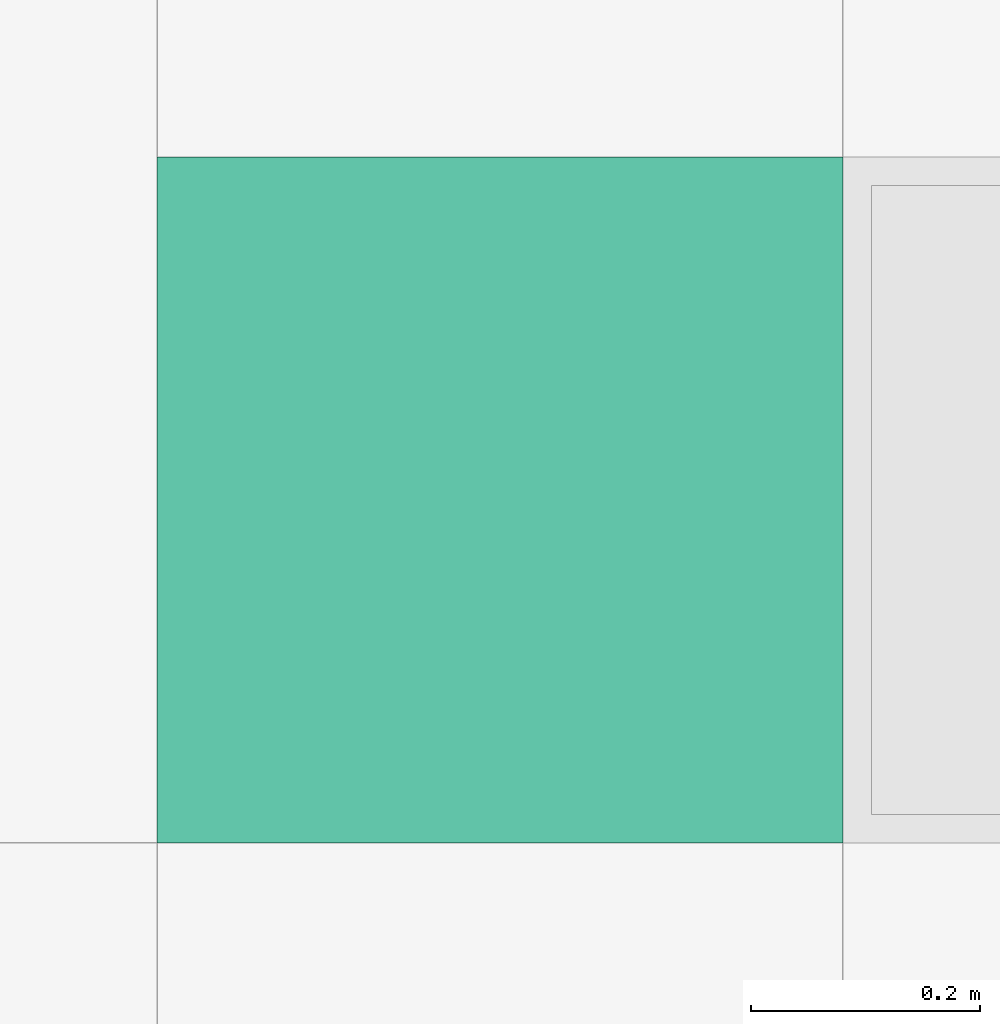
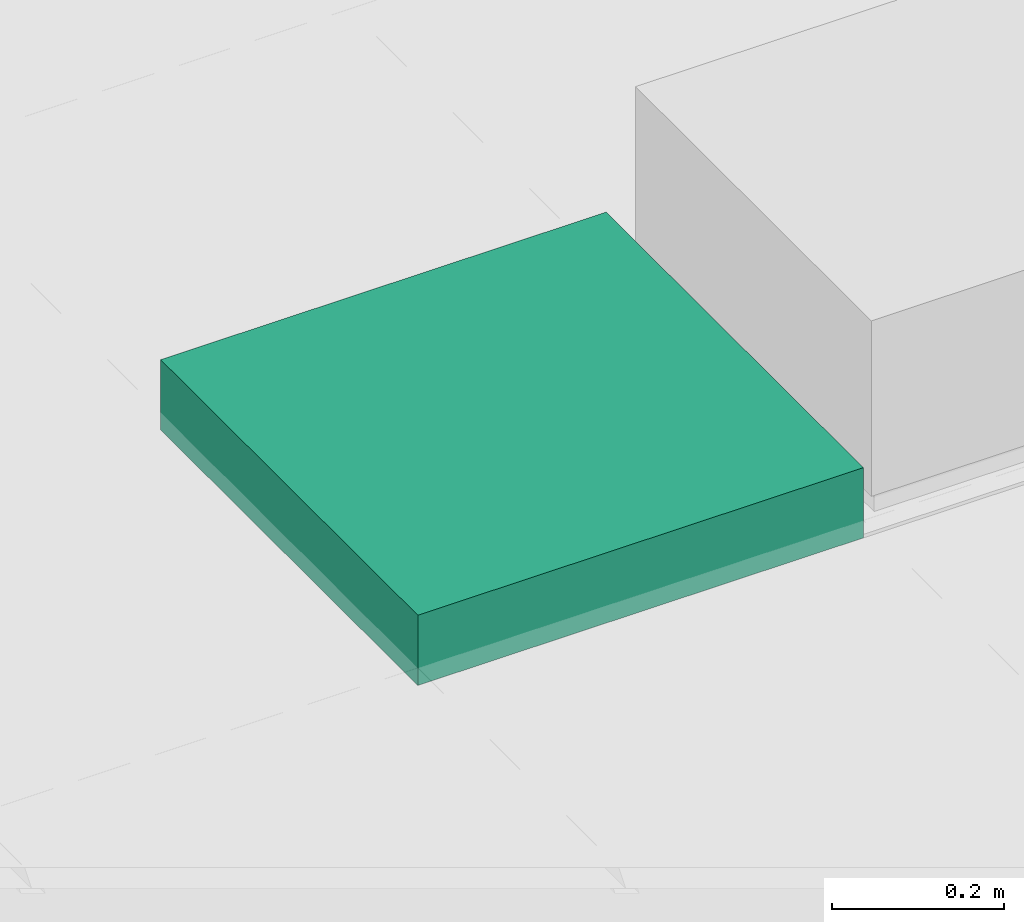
# One storey, part 291 of 347: 1 flow terminal.
"""IFC2X3 building model written with IfcOpenShell, lengths in millimetres."""

from ifc_helpers import new_model, entity, si_unit, converted_unit, derived_unit, money_unit, direction, frame, origin_with_axes, place, context, subcontext, project, spatial, open_shell, faceted_brep, surface_model, source, transform, mapped, type_object, type_shapes, element, save


model = new_model("IFC2X3")

# Units and contexts
model_context = context("Model", 3, precision=0.01, world=origin_with_axes(), true_north=direction((0.0, 1.0)))
plan_context = context("Plan", 3, precision=0.01, world=origin_with_axes(), true_north=direction((0.0, 1.0)))
body_context = subcontext(model_context, "Body", "Model", "MODEL_VIEW")
ifc_project = project(units=[si_unit("LENGTHUNIT", "METRE", prefix="MILLI"), si_unit("AREAUNIT", "SQUARE_METRE"), si_unit("VOLUMEUNIT", "CUBIC_METRE"), converted_unit("PLANEANGLEUNIT", "DEGREE", entity("IfcPlaneAngleMeasure", 0.0174532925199), si_unit("PLANEANGLEUNIT", "RADIAN"), dimensions=[0, 0, 0, 0, 0, 0, 0]), money_unit("EUR"), converted_unit("TIMEUNIT", "Year", entity("IfcTimeMeasure", 31556926.0), si_unit("TIMEUNIT", "SECOND"), dimensions=[0, 0, 1, 0, 0, 0, 0]), si_unit("MASSUNIT", "GRAM", prefix="KILO"), si_unit("THERMODYNAMICTEMPERATUREUNIT", "DEGREE_CELSIUS"), si_unit("LUMINOUSINTENSITYUNIT", "LUMEN"), si_unit("ENERGYUNIT", "JOULE", prefix="MEGA"), derived_unit("THERMALCONDUCTANCEUNIT", [(si_unit("POWERUNIT", "WATT"), 1), (si_unit("LENGTHUNIT", "METRE"), -1), (si_unit("THERMODYNAMICTEMPERATUREUNIT", "KELVIN"), -1)]), derived_unit("SPECIFICHEATCAPACITYUNIT", [(si_unit("ENERGYUNIT", "JOULE"), 1), (si_unit("MASSUNIT", "GRAM", prefix="KILO"), -1), (si_unit("THERMODYNAMICTEMPERATUREUNIT", "KELVIN"), -1)]), derived_unit("MASSDENSITYUNIT", [(si_unit("MASSUNIT", "GRAM", prefix="KILO"), 1), (si_unit("VOLUMEUNIT", "CUBIC_METRE"), -1)])], contexts=[model_context, plan_context])

# Site, building, storey
site_placement = place(None, origin_with_axes())
site = spatial("IfcSite", under=ifc_project, at=site_placement, Name="Site", CompositionType="ELEMENT")
building_placement = place(site_placement, origin_with_axes())
building = spatial("IfcBuilding", under=site, at=building_placement, Name="Naam gebouw", CompositionType="ELEMENT")
storey_placement = place(building_placement, origin_with_axes())
storey = spatial("IfcBuildingStorey", under=building, at=storey_placement, Name="begane grond", CompositionType="ELEMENT", Elevation=0.0)

# Flow terminal
lamp_type = type_object("IfcLampType", Name="TL plafond 25", PredefinedType="NOTDEFINED")
shared_shape = source(origin_with_axes(), body_context, "Body", "SurfaceModel", [
    faceted_brep([(0.0, 0.0, -100.0), (0.0, 0.0, 0.0), (-600.0, 0.0, 0.0), (-600.0, 0.0, -100.0), (0.0, 600.0, -100.0), (0.0, 600.0, 0.0), (-600.0, 600.0, 0.0), (-40.0, 40.0, 0.0), (-560.0, 40.0, 0.0), (-560.0, 560.0, 0.0), (-40.0, 560.0, 0.0), (-600.0, 600.0, -100.0), (-40.0, 40.0, -100.0), (-40.0, 560.0, -100.0), (-560.0, 560.0, -100.0), (-560.0, 40.0, -100.0)], [[[0, 1, 2, 3]], [[4, 5, 1, 0]], [[1, 5, 6, 2], [7, 8, 9, 10]], [[3, 2, 6, 11]], [[0, 3, 11, 4], [12, 13, 14, 15]], [[11, 6, 5, 4]], [[15, 8, 7, 12]], [[14, 9, 8, 15]], [[13, 10, 9, 14]], [[12, 7, 10, 13]]]),
    faceted_brep([(-40.0, 40.0, -16.3333333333), (-40.0, 40.0, 0.0), (-560.0, 40.0, 0.0), (-560.0, 40.0, -16.3333333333), (-40.0, 560.0, -16.3333333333), (-40.0, 560.0, 0.0), (-560.0, 560.0, 0.0), (-560.0, 560.0, -16.3333333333)], [[[0, 1, 2, 3]], [[4, 5, 1, 0]], [[1, 5, 6, 2]], [[3, 2, 6, 7]], [[0, 3, 7, 4]], [[7, 6, 5, 4]]]),
    surface_model("IfcShellBasedSurfaceModel", [(-559.0, 41.0, -100.0), (-559.0, 559.0, -100.0), (-40.0, 559.0, -100.0), (-40.0, 41.0, -100.0)], [open_shell([[[0, 1, 2, 3]]])]),
    faceted_brep([(-40.0, 40.0, -100.0), (-40.0, 40.0, -60.0), (-560.0, 40.0, -60.0), (-560.0, 40.0, -100.0), (-40.0, 560.0, -100.0), (-40.0, 560.0, -60.0), (-560.0, 560.0, -60.0), (-41.0, 41.0, -60.0), (-559.0, 41.0, -60.0), (-559.0, 559.0, -60.0), (-41.0, 559.0, -60.0), (-560.0, 560.0, -100.0), (-41.0, 41.0, -100.0), (-41.0, 559.0, -100.0), (-559.0, 559.0, -100.0), (-559.0, 41.0, -100.0)], [[[0, 1, 2, 3]], [[4, 5, 1, 0]], [[1, 5, 6, 2], [7, 8, 9, 10]], [[3, 2, 6, 11]], [[0, 3, 11, 4], [12, 13, 14, 15]], [[11, 6, 5, 4]], [[15, 8, 7, 12]], [[14, 9, 8, 15]], [[13, 10, 9, 14]], [[12, 7, 10, 13]]]),
    faceted_brep([(-40.0, 144.0, -48.3333333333), (-560.0, 144.0, -48.3333333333), (-560.0, 149.740251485, -47.191526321), (-40.0, 149.740251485, -47.191526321), (-40.0, 138.259748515, -47.191526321), (-560.0, 138.259748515, -47.191526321), (-560.0, 133.393398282, -43.9399350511), (-560.0, 130.141807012, -39.0735848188), (-560.0, 129.0, -33.3333333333), (-560.0, 130.141807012, -27.5930818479), (-560.0, 133.393398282, -22.7267316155), (-560.0, 138.259748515, -19.4751403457), (-560.0, 144.0, -18.3333333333), (-560.0, 149.740251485, -19.4751403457), (-560.0, 154.606601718, -22.7267316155), (-560.0, 157.858192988, -27.5930818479), (-560.0, 159.0, -33.3333333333), (-560.0, 157.858192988, -39.0735848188), (-560.0, 154.606601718, -43.9399350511), (-560.0, 144.0, -46.3333333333), (-560.0, 148.974884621, -45.343767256), (-560.0, 153.192388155, -42.5257214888), (-560.0, 156.010433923, -38.3082179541), (-560.0, 157.0, -33.3333333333), (-560.0, 156.010433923, -28.3584487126), (-560.0, 153.192388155, -24.1409451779), (-560.0, 148.974884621, -21.3228994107), (-560.0, 144.0, -20.3333333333), (-560.0, 139.025115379, -21.3228994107), (-560.0, 134.807611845, -24.1409451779), (-560.0, 131.989566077, -28.3584487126), (-560.0, 131.0, -33.3333333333), (-560.0, 131.989566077, -38.3082179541), (-560.0, 134.807611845, -42.5257214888), (-560.0, 139.025115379, -45.343767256), (-40.0, 154.606601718, -43.9399350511), (-40.0, 157.858192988, -39.0735848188), (-40.0, 159.0, -33.3333333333), (-40.0, 157.858192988, -27.5930818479), (-40.0, 154.606601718, -22.7267316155), (-40.0, 149.740251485, -19.4751403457), (-40.0, 144.0, -18.3333333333), (-40.0, 138.259748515, -19.4751403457), (-40.0, 133.393398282, -22.7267316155), (-40.0, 130.141807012, -27.5930818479), (-40.0, 129.0, -33.3333333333), (-40.0, 130.141807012, -39.0735848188), (-40.0, 133.393398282, -43.9399350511), (-40.0, 144.0, -46.3333333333), (-40.0, 139.025115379, -45.343767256), (-40.0, 134.807611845, -42.5257214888), (-40.0, 131.989566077, -38.3082179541), (-40.0, 131.0, -33.3333333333), (-40.0, 131.989566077, -28.3584487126), (-40.0, 134.807611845, -24.1409451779), (-40.0, 139.025115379, -21.3228994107), (-40.0, 144.0, -20.3333333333), (-40.0, 148.974884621, -21.3228994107), (-40.0, 153.192388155, -24.1409451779), (-40.0, 156.010433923, -28.3584487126), (-40.0, 157.0, -33.3333333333), (-40.0, 156.010433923, -38.3082179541), (-40.0, 153.192388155, -42.5257214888), (-40.0, 148.974884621, -45.343767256)], [[[0, 1, 2, 3]], [[4, 5, 1, 0]], [[1, 5, 6, 7, 8, 9, 10, 11, 12, 13, 14, 15, 16, 17, 18, 2], [19, 20, 21, 22, 23, 24, 25, 26, 27, 28, 29, 30, 31, 32, 33, 34]], [[3, 2, 18, 35]], [[0, 3, 35, 36, 37, 38, 39, 40, 41, 42, 43, 44, 45, 46, 47, 4], [48, 49, 50, 51, 52, 53, 54, 55, 56, 57, 58, 59, 60, 61, 62, 63]], [[47, 6, 5, 4]], [[46, 7, 6, 47]], [[45, 8, 7, 46]], [[44, 9, 8, 45]], [[43, 10, 9, 44]], [[42, 11, 10, 43]], [[41, 12, 11, 42]], [[40, 13, 12, 41]], [[39, 14, 13, 40]], [[38, 15, 14, 39]], [[37, 16, 15, 38]], [[36, 17, 16, 37]], [[35, 18, 17, 36]], [[63, 20, 19, 48]], [[62, 21, 20, 63]], [[61, 22, 21, 62]], [[60, 23, 22, 61]], [[59, 24, 23, 60]], [[58, 25, 24, 59]], [[57, 26, 25, 58]], [[56, 27, 26, 57]], [[55, 28, 27, 56]], [[54, 29, 28, 55]], [[53, 30, 29, 54]], [[52, 31, 30, 53]], [[51, 32, 31, 52]], [[50, 33, 32, 51]], [[49, 34, 33, 50]], [[48, 19, 34, 49]]]),
    faceted_brep([(-40.0, 248.0, -48.3333333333), (-560.0, 248.0, -48.3333333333), (-560.0, 253.740251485, -47.191526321), (-40.0, 253.740251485, -47.191526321), (-40.0, 242.259748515, -47.191526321), (-560.0, 242.259748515, -47.191526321), (-560.0, 237.393398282, -43.9399350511), (-560.0, 234.141807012, -39.0735848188), (-560.0, 233.0, -33.3333333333), (-560.0, 234.141807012, -27.5930818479), (-560.0, 237.393398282, -22.7267316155), (-560.0, 242.259748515, -19.4751403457), (-560.0, 248.0, -18.3333333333), (-560.0, 253.740251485, -19.4751403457), (-560.0, 258.606601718, -22.7267316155), (-560.0, 261.858192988, -27.5930818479), (-560.0, 263.0, -33.3333333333), (-560.0, 261.858192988, -39.0735848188), (-560.0, 258.606601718, -43.9399350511), (-560.0, 248.0, -46.3333333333), (-560.0, 252.974884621, -45.343767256), (-560.0, 257.192388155, -42.5257214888), (-560.0, 260.010433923, -38.3082179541), (-560.0, 261.0, -33.3333333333), (-560.0, 260.010433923, -28.3584487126), (-560.0, 257.192388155, -24.1409451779), (-560.0, 252.974884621, -21.3228994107), (-560.0, 248.0, -20.3333333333), (-560.0, 243.025115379, -21.3228994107), (-560.0, 238.807611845, -24.1409451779), (-560.0, 235.989566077, -28.3584487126), (-560.0, 235.0, -33.3333333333), (-560.0, 235.989566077, -38.3082179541), (-560.0, 238.807611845, -42.5257214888), (-560.0, 243.025115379, -45.343767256), (-40.0, 258.606601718, -43.9399350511), (-40.0, 261.858192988, -39.0735848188), (-40.0, 263.0, -33.3333333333), (-40.0, 261.858192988, -27.5930818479), (-40.0, 258.606601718, -22.7267316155), (-40.0, 253.740251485, -19.4751403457), (-40.0, 248.0, -18.3333333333), (-40.0, 242.259748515, -19.4751403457), (-40.0, 237.393398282, -22.7267316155), (-40.0, 234.141807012, -27.5930818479), (-40.0, 233.0, -33.3333333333), (-40.0, 234.141807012, -39.0735848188), (-40.0, 237.393398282, -43.9399350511), (-40.0, 248.0, -46.3333333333), (-40.0, 243.025115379, -45.343767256), (-40.0, 238.807611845, -42.5257214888), (-40.0, 235.989566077, -38.3082179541), (-40.0, 235.0, -33.3333333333), (-40.0, 235.989566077, -28.3584487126), (-40.0, 238.807611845, -24.1409451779), (-40.0, 243.025115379, -21.3228994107), (-40.0, 248.0, -20.3333333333), (-40.0, 252.974884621, -21.3228994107), (-40.0, 257.192388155, -24.1409451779), (-40.0, 260.010433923, -28.3584487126), (-40.0, 261.0, -33.3333333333), (-40.0, 260.010433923, -38.3082179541), (-40.0, 257.192388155, -42.5257214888), (-40.0, 252.974884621, -45.343767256)], [[[0, 1, 2, 3]], [[4, 5, 1, 0]], [[1, 5, 6, 7, 8, 9, 10, 11, 12, 13, 14, 15, 16, 17, 18, 2], [19, 20, 21, 22, 23, 24, 25, 26, 27, 28, 29, 30, 31, 32, 33, 34]], [[3, 2, 18, 35]], [[0, 3, 35, 36, 37, 38, 39, 40, 41, 42, 43, 44, 45, 46, 47, 4], [48, 49, 50, 51, 52, 53, 54, 55, 56, 57, 58, 59, 60, 61, 62, 63]], [[47, 6, 5, 4]], [[46, 7, 6, 47]], [[45, 8, 7, 46]], [[44, 9, 8, 45]], [[43, 10, 9, 44]], [[42, 11, 10, 43]], [[41, 12, 11, 42]], [[40, 13, 12, 41]], [[39, 14, 13, 40]], [[38, 15, 14, 39]], [[37, 16, 15, 38]], [[36, 17, 16, 37]], [[35, 18, 17, 36]], [[63, 20, 19, 48]], [[62, 21, 20, 63]], [[61, 22, 21, 62]], [[60, 23, 22, 61]], [[59, 24, 23, 60]], [[58, 25, 24, 59]], [[57, 26, 25, 58]], [[56, 27, 26, 57]], [[55, 28, 27, 56]], [[54, 29, 28, 55]], [[53, 30, 29, 54]], [[52, 31, 30, 53]], [[51, 32, 31, 52]], [[50, 33, 32, 51]], [[49, 34, 33, 50]], [[48, 19, 34, 49]]]),
    faceted_brep([(-40.0, 352.0, -48.3333333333), (-560.0, 352.0, -48.3333333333), (-560.0, 357.740251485, -47.191526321), (-40.0, 357.740251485, -47.191526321), (-40.0, 346.259748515, -47.191526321), (-560.0, 346.259748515, -47.191526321), (-560.0, 341.393398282, -43.9399350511), (-560.0, 338.141807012, -39.0735848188), (-560.0, 337.0, -33.3333333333), (-560.0, 338.141807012, -27.5930818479), (-560.0, 341.393398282, -22.7267316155), (-560.0, 346.259748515, -19.4751403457), (-560.0, 352.0, -18.3333333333), (-560.0, 357.740251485, -19.4751403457), (-560.0, 362.606601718, -22.7267316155), (-560.0, 365.858192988, -27.5930818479), (-560.0, 367.0, -33.3333333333), (-560.0, 365.858192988, -39.0735848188), (-560.0, 362.606601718, -43.9399350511), (-560.0, 352.0, -46.3333333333), (-560.0, 356.974884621, -45.343767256), (-560.0, 361.192388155, -42.5257214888), (-560.0, 364.010433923, -38.3082179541), (-560.0, 365.0, -33.3333333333), (-560.0, 364.010433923, -28.3584487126), (-560.0, 361.192388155, -24.1409451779), (-560.0, 356.974884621, -21.3228994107), (-560.0, 352.0, -20.3333333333), (-560.0, 347.025115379, -21.3228994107), (-560.0, 342.807611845, -24.1409451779), (-560.0, 339.989566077, -28.3584487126), (-560.0, 339.0, -33.3333333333), (-560.0, 339.989566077, -38.3082179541), (-560.0, 342.807611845, -42.5257214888), (-560.0, 347.025115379, -45.343767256), (-40.0, 362.606601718, -43.9399350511), (-40.0, 365.858192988, -39.0735848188), (-40.0, 367.0, -33.3333333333), (-40.0, 365.858192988, -27.5930818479), (-40.0, 362.606601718, -22.7267316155), (-40.0, 357.740251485, -19.4751403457), (-40.0, 352.0, -18.3333333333), (-40.0, 346.259748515, -19.4751403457), (-40.0, 341.393398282, -22.7267316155), (-40.0, 338.141807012, -27.5930818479), (-40.0, 337.0, -33.3333333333), (-40.0, 338.141807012, -39.0735848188), (-40.0, 341.393398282, -43.9399350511), (-40.0, 352.0, -46.3333333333), (-40.0, 347.025115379, -45.343767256), (-40.0, 342.807611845, -42.5257214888), (-40.0, 339.989566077, -38.3082179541), (-40.0, 339.0, -33.3333333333), (-40.0, 339.989566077, -28.3584487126), (-40.0, 342.807611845, -24.1409451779), (-40.0, 347.025115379, -21.3228994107), (-40.0, 352.0, -20.3333333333), (-40.0, 356.974884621, -21.3228994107), (-40.0, 361.192388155, -24.1409451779), (-40.0, 364.010433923, -28.3584487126), (-40.0, 365.0, -33.3333333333), (-40.0, 364.010433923, -38.3082179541), (-40.0, 361.192388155, -42.5257214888), (-40.0, 356.974884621, -45.343767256)], [[[0, 1, 2, 3]], [[4, 5, 1, 0]], [[1, 5, 6, 7, 8, 9, 10, 11, 12, 13, 14, 15, 16, 17, 18, 2], [19, 20, 21, 22, 23, 24, 25, 26, 27, 28, 29, 30, 31, 32, 33, 34]], [[3, 2, 18, 35]], [[0, 3, 35, 36, 37, 38, 39, 40, 41, 42, 43, 44, 45, 46, 47, 4], [48, 49, 50, 51, 52, 53, 54, 55, 56, 57, 58, 59, 60, 61, 62, 63]], [[47, 6, 5, 4]], [[46, 7, 6, 47]], [[45, 8, 7, 46]], [[44, 9, 8, 45]], [[43, 10, 9, 44]], [[42, 11, 10, 43]], [[41, 12, 11, 42]], [[40, 13, 12, 41]], [[39, 14, 13, 40]], [[38, 15, 14, 39]], [[37, 16, 15, 38]], [[36, 17, 16, 37]], [[35, 18, 17, 36]], [[63, 20, 19, 48]], [[62, 21, 20, 63]], [[61, 22, 21, 62]], [[60, 23, 22, 61]], [[59, 24, 23, 60]], [[58, 25, 24, 59]], [[57, 26, 25, 58]], [[56, 27, 26, 57]], [[55, 28, 27, 56]], [[54, 29, 28, 55]], [[53, 30, 29, 54]], [[52, 31, 30, 53]], [[51, 32, 31, 52]], [[50, 33, 32, 51]], [[49, 34, 33, 50]], [[48, 19, 34, 49]]]),
    faceted_brep([(-40.0, 456.0, -48.3333333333), (-560.0, 456.0, -48.3333333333), (-560.0, 461.740251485, -47.191526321), (-40.0, 461.740251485, -47.191526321), (-40.0, 450.259748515, -47.191526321), (-560.0, 450.259748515, -47.191526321), (-560.0, 445.393398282, -43.9399350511), (-560.0, 442.141807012, -39.0735848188), (-560.0, 441.0, -33.3333333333), (-560.0, 442.141807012, -27.5930818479), (-560.0, 445.393398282, -22.7267316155), (-560.0, 450.259748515, -19.4751403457), (-560.0, 456.0, -18.3333333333), (-560.0, 461.740251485, -19.4751403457), (-560.0, 466.606601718, -22.7267316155), (-560.0, 469.858192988, -27.5930818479), (-560.0, 471.0, -33.3333333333), (-560.0, 469.858192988, -39.0735848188), (-560.0, 466.606601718, -43.9399350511), (-560.0, 456.0, -46.3333333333), (-560.0, 460.974884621, -45.343767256), (-560.0, 465.192388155, -42.5257214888), (-560.0, 468.010433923, -38.3082179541), (-560.0, 469.0, -33.3333333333), (-560.0, 468.010433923, -28.3584487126), (-560.0, 465.192388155, -24.1409451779), (-560.0, 460.974884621, -21.3228994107), (-560.0, 456.0, -20.3333333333), (-560.0, 451.025115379, -21.3228994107), (-560.0, 446.807611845, -24.1409451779), (-560.0, 443.989566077, -28.3584487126), (-560.0, 443.0, -33.3333333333), (-560.0, 443.989566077, -38.3082179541), (-560.0, 446.807611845, -42.5257214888), (-560.0, 451.025115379, -45.343767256), (-40.0, 466.606601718, -43.9399350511), (-40.0, 469.858192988, -39.0735848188), (-40.0, 471.0, -33.3333333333), (-40.0, 469.858192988, -27.5930818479), (-40.0, 466.606601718, -22.7267316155), (-40.0, 461.740251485, -19.4751403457), (-40.0, 456.0, -18.3333333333), (-40.0, 450.259748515, -19.4751403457), (-40.0, 445.393398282, -22.7267316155), (-40.0, 442.141807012, -27.5930818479), (-40.0, 441.0, -33.3333333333), (-40.0, 442.141807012, -39.0735848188), (-40.0, 445.393398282, -43.9399350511), (-40.0, 456.0, -46.3333333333), (-40.0, 451.025115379, -45.343767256), (-40.0, 446.807611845, -42.5257214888), (-40.0, 443.989566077, -38.3082179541), (-40.0, 443.0, -33.3333333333), (-40.0, 443.989566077, -28.3584487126), (-40.0, 446.807611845, -24.1409451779), (-40.0, 451.025115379, -21.3228994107), (-40.0, 456.0, -20.3333333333), (-40.0, 460.974884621, -21.3228994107), (-40.0, 465.192388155, -24.1409451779), (-40.0, 468.010433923, -28.3584487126), (-40.0, 469.0, -33.3333333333), (-40.0, 468.010433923, -38.3082179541), (-40.0, 465.192388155, -42.5257214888), (-40.0, 460.974884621, -45.343767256)], [[[0, 1, 2, 3]], [[4, 5, 1, 0]], [[1, 5, 6, 7, 8, 9, 10, 11, 12, 13, 14, 15, 16, 17, 18, 2], [19, 20, 21, 22, 23, 24, 25, 26, 27, 28, 29, 30, 31, 32, 33, 34]], [[3, 2, 18, 35]], [[0, 3, 35, 36, 37, 38, 39, 40, 41, 42, 43, 44, 45, 46, 47, 4], [48, 49, 50, 51, 52, 53, 54, 55, 56, 57, 58, 59, 60, 61, 62, 63]], [[47, 6, 5, 4]], [[46, 7, 6, 47]], [[45, 8, 7, 46]], [[44, 9, 8, 45]], [[43, 10, 9, 44]], [[42, 11, 10, 43]], [[41, 12, 11, 42]], [[40, 13, 12, 41]], [[39, 14, 13, 40]], [[38, 15, 14, 39]], [[37, 16, 15, 38]], [[36, 17, 16, 37]], [[35, 18, 17, 36]], [[63, 20, 19, 48]], [[62, 21, 20, 63]], [[61, 22, 21, 62]], [[60, 23, 22, 61]], [[59, 24, 23, 60]], [[58, 25, 24, 59]], [[57, 26, 25, 58]], [[56, 27, 26, 57]], [[55, 28, 27, 56]], [[54, 29, 28, 55]], [[53, 30, 29, 54]], [[52, 31, 30, 53]], [[51, 32, 31, 52]], [[50, 33, 32, 51]], [[49, 34, 33, 50]], [[48, 19, 34, 49]]]),
])
type_shapes(lamp_type, [shared_shape])
flow_terminal_placement = place(storey_placement, frame((49874.9999843, 40590.5, 3295.0), z_axis=(0.0, 0.0, 1.0), x_axis=(1.0, 0.0, 0.0)))
element("IfcFlowTerminal", 1, at=flow_terminal_placement, inside=storey, type_object=lamp_type, Name="63_Lamp-x", ObjectType="Lamp", context=body_context, shape_type="MappedRepresentation", body=[
    mapped(shared_shape, transform((0.0, 0.0, 0.0))),
])

save(model, "model.ifc")
